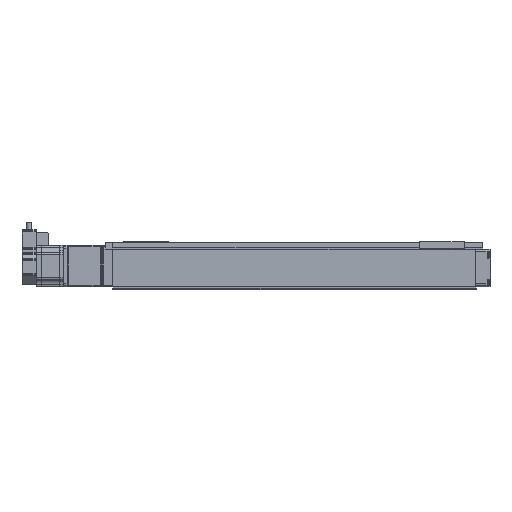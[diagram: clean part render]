
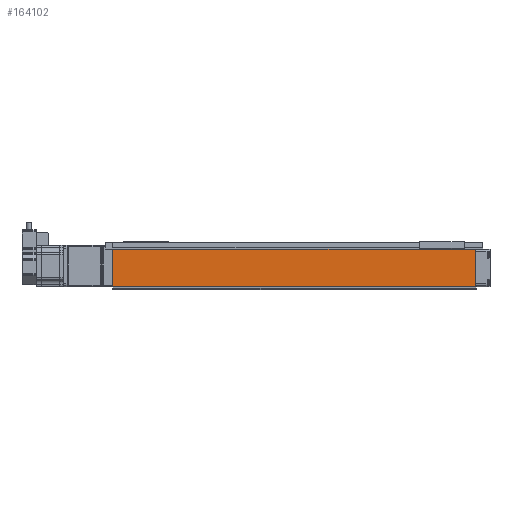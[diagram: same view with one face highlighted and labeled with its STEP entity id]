
A CAD part, front view. The second image highlights one B-rep face of the part: STEP entity #164102.
In plain terms, the highlighted planar face has unit normal (0, -1, 0).
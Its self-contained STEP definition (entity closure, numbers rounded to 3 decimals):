
#164102 = ADVANCED_FACE('',(#164103),#164117,.T.);
#164103 = FACE_BOUND('',#164104,.T.);
#164104 = EDGE_LOOP('',(#164105,#164140,#164168,#164196));
#164105 = ORIENTED_EDGE('',*,*,#164106,.T.);
#164106 = EDGE_CURVE('',#164107,#164109,#164111,.T.);
#164107 = VERTEX_POINT('',#164108);
#164108 = CARTESIAN_POINT('',(976.173,-709.318,181.5));
#164109 = VERTEX_POINT('',#164110);
#164110 = CARTESIAN_POINT('',(976.173,-709.318,232.5));
#164111 = SURFACE_CURVE('',#164112,(#164116,#164128),.PCURVE_S1.);
#164112 = LINE('',#164113,#164114);
#164113 = CARTESIAN_POINT('',(976.173,-709.318,207.));
#164114 = VECTOR('',#164115,1.);
#164115 = DIRECTION('',(0.,0.,1.));
#164116 = PCURVE('',#164117,#164122);
#164117 = PLANE('',#164118);
#164118 = AXIS2_PLACEMENT_3D('',#164119,#164120,#164121);
#164119 = CARTESIAN_POINT('',(486.173,-709.318,181.5));
#164120 = DIRECTION('',(0.,-1.,0.));
#164121 = DIRECTION('',(1.,0.,0.));
#164122 = DEFINITIONAL_REPRESENTATION('',(#164123),#164127);
#164123 = LINE('',#164124,#164125);
#164124 = CARTESIAN_POINT('',(490.,25.5));
#164125 = VECTOR('',#164126,1.);
#164126 = DIRECTION('',(0.,1.));
#164127 = ( GEOMETRIC_REPRESENTATION_CONTEXT(2) 
PARAMETRIC_REPRESENTATION_CONTEXT() REPRESENTATION_CONTEXT('2D SPACE',''
  ) );
#164128 = PCURVE('',#164129,#164134);
#164129 = PLANE('',#164130);
#164130 = AXIS2_PLACEMENT_3D('',#164131,#164132,#164133);
#164131 = CARTESIAN_POINT('',(976.173,-629.318,181.5));
#164132 = DIRECTION('',(-1.,0.,0.));
#164133 = DIRECTION('',(0.,-1.,0.));
#164134 = DEFINITIONAL_REPRESENTATION('',(#164135),#164139);
#164135 = LINE('',#164136,#164137);
#164136 = CARTESIAN_POINT('',(80.,25.5));
#164137 = VECTOR('',#164138,1.);
#164138 = DIRECTION('',(0.,1.));
#164139 = ( GEOMETRIC_REPRESENTATION_CONTEXT(2) 
PARAMETRIC_REPRESENTATION_CONTEXT() REPRESENTATION_CONTEXT('2D SPACE',''
  ) );
#164140 = ORIENTED_EDGE('',*,*,#164141,.T.);
#164141 = EDGE_CURVE('',#164109,#164142,#164144,.T.);
#164142 = VERTEX_POINT('',#164143);
#164143 = CARTESIAN_POINT('',(486.173,-709.318,232.5));
#164144 = SURFACE_CURVE('',#164145,(#164149,#164156),.PCURVE_S1.);
#164145 = LINE('',#164146,#164147);
#164146 = CARTESIAN_POINT('',(731.173,-709.318,232.5));
#164147 = VECTOR('',#164148,1.);
#164148 = DIRECTION('',(-1.,0.,0.));
#164149 = PCURVE('',#164117,#164150);
#164150 = DEFINITIONAL_REPRESENTATION('',(#164151),#164155);
#164151 = LINE('',#164152,#164153);
#164152 = CARTESIAN_POINT('',(245.,51.));
#164153 = VECTOR('',#164154,1.);
#164154 = DIRECTION('',(-1.,0.));
#164155 = ( GEOMETRIC_REPRESENTATION_CONTEXT(2) 
PARAMETRIC_REPRESENTATION_CONTEXT() REPRESENTATION_CONTEXT('2D SPACE',''
  ) );
#164156 = PCURVE('',#164157,#164162);
#164157 = PLANE('',#164158);
#164158 = AXIS2_PLACEMENT_3D('',#164159,#164160,#164161);
#164159 = CARTESIAN_POINT('',(486.173,-709.318,232.5));
#164160 = DIRECTION('',(0.,0.,-1.));
#164161 = DIRECTION('',(0.,1.,0.));
#164162 = DEFINITIONAL_REPRESENTATION('',(#164163),#164167);
#164163 = LINE('',#164164,#164165);
#164164 = CARTESIAN_POINT('',(0.,245.));
#164165 = VECTOR('',#164166,1.);
#164166 = DIRECTION('',(0.,-1.));
#164167 = ( GEOMETRIC_REPRESENTATION_CONTEXT(2) 
PARAMETRIC_REPRESENTATION_CONTEXT() REPRESENTATION_CONTEXT('2D SPACE',''
  ) );
#164168 = ORIENTED_EDGE('',*,*,#164169,.T.);
#164169 = EDGE_CURVE('',#164142,#164170,#164172,.T.);
#164170 = VERTEX_POINT('',#164171);
#164171 = CARTESIAN_POINT('',(486.173,-709.318,181.5));
#164172 = SURFACE_CURVE('',#164173,(#164177,#164184),.PCURVE_S1.);
#164173 = LINE('',#164174,#164175);
#164174 = CARTESIAN_POINT('',(486.173,-709.318,207.));
#164175 = VECTOR('',#164176,1.);
#164176 = DIRECTION('',(0.,0.,-1.));
#164177 = PCURVE('',#164117,#164178);
#164178 = DEFINITIONAL_REPRESENTATION('',(#164179),#164183);
#164179 = LINE('',#164180,#164181);
#164180 = CARTESIAN_POINT('',(0.,25.5));
#164181 = VECTOR('',#164182,1.);
#164182 = DIRECTION('',(0.,-1.));
#164183 = ( GEOMETRIC_REPRESENTATION_CONTEXT(2) 
PARAMETRIC_REPRESENTATION_CONTEXT() REPRESENTATION_CONTEXT('2D SPACE',''
  ) );
#164184 = PCURVE('',#164185,#164190);
#164185 = PLANE('',#164186);
#164186 = AXIS2_PLACEMENT_3D('',#164187,#164188,#164189);
#164187 = CARTESIAN_POINT('',(486.173,-709.318,181.5));
#164188 = DIRECTION('',(1.,0.,0.));
#164189 = DIRECTION('',(0.,1.,0.));
#164190 = DEFINITIONAL_REPRESENTATION('',(#164191),#164195);
#164191 = LINE('',#164192,#164193);
#164192 = CARTESIAN_POINT('',(0.,25.5));
#164193 = VECTOR('',#164194,1.);
#164194 = DIRECTION('',(0.,-1.));
#164195 = ( GEOMETRIC_REPRESENTATION_CONTEXT(2) 
PARAMETRIC_REPRESENTATION_CONTEXT() REPRESENTATION_CONTEXT('2D SPACE',''
  ) );
#164196 = ORIENTED_EDGE('',*,*,#164197,.T.);
#164197 = EDGE_CURVE('',#164170,#164107,#164198,.T.);
#164198 = SURFACE_CURVE('',#164199,(#164203,#164210),.PCURVE_S1.);
#164199 = LINE('',#164200,#164201);
#164200 = CARTESIAN_POINT('',(731.173,-709.318,181.5));
#164201 = VECTOR('',#164202,1.);
#164202 = DIRECTION('',(1.,0.,0.));
#164203 = PCURVE('',#164117,#164204);
#164204 = DEFINITIONAL_REPRESENTATION('',(#164205),#164209);
#164205 = LINE('',#164206,#164207);
#164206 = CARTESIAN_POINT('',(245.,0.));
#164207 = VECTOR('',#164208,1.);
#164208 = DIRECTION('',(1.,0.));
#164209 = ( GEOMETRIC_REPRESENTATION_CONTEXT(2) 
PARAMETRIC_REPRESENTATION_CONTEXT() REPRESENTATION_CONTEXT('2D SPACE',''
  ) );
#164210 = PCURVE('',#164211,#164216);
#164211 = PLANE('',#164212);
#164212 = AXIS2_PLACEMENT_3D('',#164213,#164214,#164215);
#164213 = CARTESIAN_POINT('',(486.173,-629.318,181.5));
#164214 = DIRECTION('',(0.,0.,1.));
#164215 = DIRECTION('',(0.,-1.,0.));
#164216 = DEFINITIONAL_REPRESENTATION('',(#164217),#164221);
#164217 = LINE('',#164218,#164219);
#164218 = CARTESIAN_POINT('',(80.,245.));
#164219 = VECTOR('',#164220,1.);
#164220 = DIRECTION('',(0.,1.));
#164221 = ( GEOMETRIC_REPRESENTATION_CONTEXT(2) 
PARAMETRIC_REPRESENTATION_CONTEXT() REPRESENTATION_CONTEXT('2D SPACE',''
  ) );
